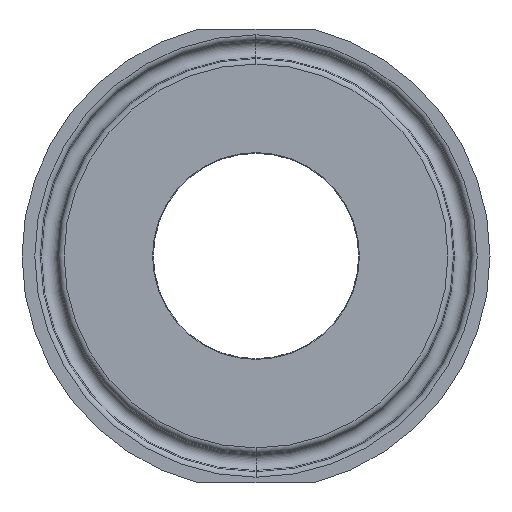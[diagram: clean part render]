
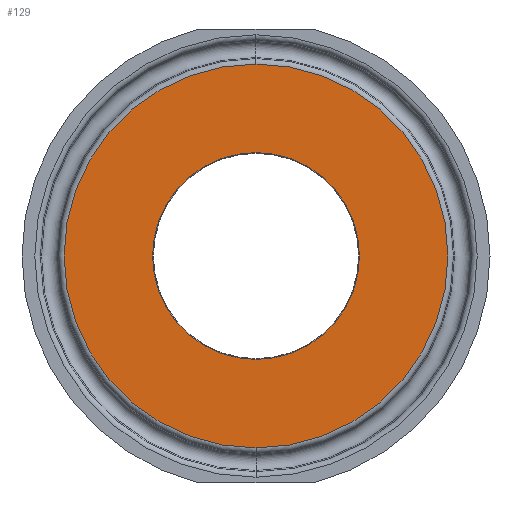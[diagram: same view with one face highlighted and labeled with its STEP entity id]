
A CAD part, front view. The second image highlights one B-rep face of the part: STEP entity #129.
In plain terms, the highlighted planar face has unit normal (0, -1, 0).
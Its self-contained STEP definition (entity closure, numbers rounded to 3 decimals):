
#129 = ADVANCED_FACE( '', ( #247, #248 ), #249, .T. );
#247 = FACE_BOUND( '', #375, .T. );
#248 = FACE_OUTER_BOUND( '', #376, .T. );
#249 = PLANE( '', #377 );
#375 = EDGE_LOOP( '', ( #839, #840, #841 ) );
#376 = EDGE_LOOP( '', ( #842, #843, #844 ) );
#377 = AXIS2_PLACEMENT_3D( '', #845, #846, #847 );
#839 = ORIENTED_EDGE( '', *, *, #1050, .F. );
#840 = ORIENTED_EDGE( '', *, *, #1049, .F. );
#841 = ORIENTED_EDGE( '', *, *, #969, .F. );
#842 = ORIENTED_EDGE( '', *, *, #1047, .T. );
#843 = ORIENTED_EDGE( '', *, *, #972, .T. );
#844 = ORIENTED_EDGE( '', *, *, #1048, .T. );
#845 = CARTESIAN_POINT( '', ( 16., 0., 0. ) );
#846 = DIRECTION( '', ( 0., -1., 0. ) );
#847 = DIRECTION( '', ( -1., 0., 0. ) );
#969 = EDGE_CURVE( '', #1185, #1187, #1188, .T. );
#972 = EDGE_CURVE( '', #1193, #1190, #1194, .T. );
#1047 = EDGE_CURVE( '', #1314, #1193, #1315, .T. );
#1048 = EDGE_CURVE( '', #1190, #1314, #1316, .T. );
#1049 = EDGE_CURVE( '', #1187, #1317, #1318, .T. );
#1050 = EDGE_CURVE( '', #1317, #1185, #1319, .T. );
#1185 = VERTEX_POINT( '', #1472 );
#1187 = VERTEX_POINT( '', #1474 );
#1188 = CIRCLE( '', #1475, 14.139 );
#1190 = VERTEX_POINT( '', #1477 );
#1193 = VERTEX_POINT( '', #1480 );
#1194 = CIRCLE( '', #1481, 26.247 );
#1314 = VERTEX_POINT( '', #1782 );
#1315 = CIRCLE( '', #1783, 26.247 );
#1316 = CIRCLE( '', #1784, 26.247 );
#1317 = VERTEX_POINT( '', #1785 );
#1318 = CIRCLE( '', #1786, 14.139 );
#1319 = CIRCLE( '', #1787, 14.139 );
#1472 = CARTESIAN_POINT( '', ( 0., 0., 14.139 ) );
#1474 = CARTESIAN_POINT( '', ( 0., 0., -14.139 ) );
#1475 = AXIS2_PLACEMENT_3D( '', #1967, #1968, #1969 );
#1477 = CARTESIAN_POINT( '', ( 0., 0., -26.247 ) );
#1480 = CARTESIAN_POINT( '', ( 0., 0., 26.247 ) );
#1481 = AXIS2_PLACEMENT_3D( '', #1976, #1977, #1978 );
#1782 = CARTESIAN_POINT( '', ( 26.247, 0., 0. ) );
#1783 = AXIS2_PLACEMENT_3D( '', #2131, #2132, #2133 );
#1784 = AXIS2_PLACEMENT_3D( '', #2134, #2135, #2136 );
#1785 = CARTESIAN_POINT( '', ( 14.139, 0., 0. ) );
#1786 = AXIS2_PLACEMENT_3D( '', #2137, #2138, #2139 );
#1787 = AXIS2_PLACEMENT_3D( '', #2140, #2141, #2142 );
#1967 = CARTESIAN_POINT( '', ( 0., 0., 0. ) );
#1968 = DIRECTION( '', ( 0., -1., 0. ) );
#1969 = DIRECTION( '', ( 0., 0., 1. ) );
#1976 = CARTESIAN_POINT( '', ( 0., 0., 0. ) );
#1977 = DIRECTION( '', ( 0., -1., 0. ) );
#1978 = DIRECTION( '', ( 0., 0., 1. ) );
#2131 = CARTESIAN_POINT( '', ( 0., 0., 0. ) );
#2132 = DIRECTION( '', ( 0., -1., 0. ) );
#2133 = DIRECTION( '', ( 0., 0., 1. ) );
#2134 = CARTESIAN_POINT( '', ( 0., 0., 0. ) );
#2135 = DIRECTION( '', ( 0., -1., 0. ) );
#2136 = DIRECTION( '', ( 0., 0., 1. ) );
#2137 = CARTESIAN_POINT( '', ( 0., 0., 0. ) );
#2138 = DIRECTION( '', ( 0., -1., 0. ) );
#2139 = DIRECTION( '', ( 0., 0., 1. ) );
#2140 = CARTESIAN_POINT( '', ( 0., 0., 0. ) );
#2141 = DIRECTION( '', ( 0., -1., 0. ) );
#2142 = DIRECTION( '', ( 0., 0., 1. ) );
